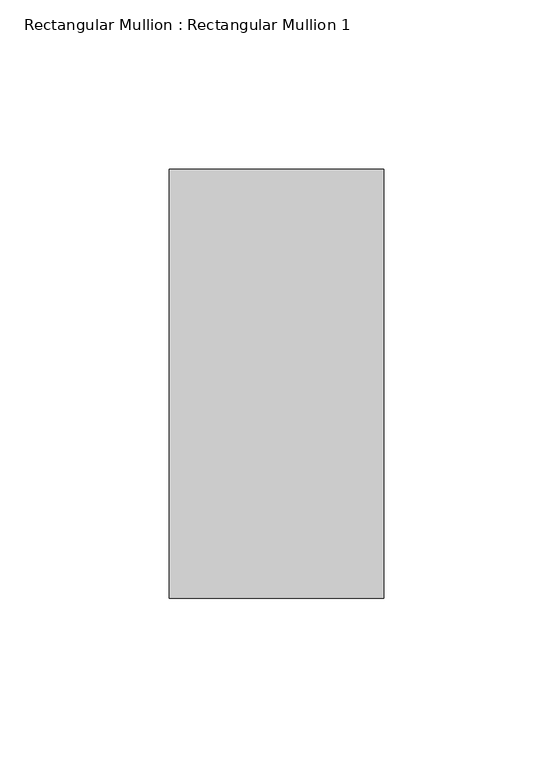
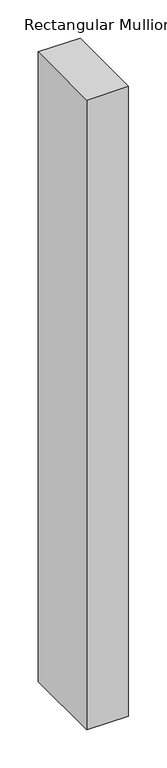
"""IFC4 building model written with IfcOpenShell, lengths in millimetres: member geometry, Rectangular Mullion : Rectangular Mullion 1."""

from ifc_helpers import new_model, si_unit, frame, origin, place, context, project, spatial, polyline, outline, extrude, source, transform, mapped, element, save


def rectangular_mullion_rectangular_mullion_1_81282a92(model_context):
    return source(origin(), model_context, "Body", "SweptSolid", [
        extrude(outline(polyline([(0.0, 63.5), (0.0, -63.5), (-63.5, -63.5), (-63.5, 63.5), (0.0, 63.5)])), frame((0.0, 0.0, -1008.5916667), z_axis=(0.0, 0.0, 1.0), x_axis=(1.0, 0.0, 0.0)), (0.0, 0.0, 1.0), 1008.5916667),
    ])


if __name__ == "__main__":
    model = new_model("IFC4")
    model_context = context("Model", 3, world=origin())
    ifc_project = project(units=[si_unit("LENGTHUNIT", "METRE", prefix="MILLI")], contexts=[model_context])
    site = spatial("IfcSite", under=ifc_project)
    building = spatial("IfcBuilding", under=site)
    placement = place(None, origin())
    rectangular_mullion_rectangular_mullion_1_shape = rectangular_mullion_rectangular_mullion_1_81282a92(model_context)
    element("IfcMember", 1, ObjectType="Rectangular Mullion : Rectangular Mullion 1", at=placement, inside=building, context=model_context, shape_type="MappedRepresentation", body=[
        mapped(rectangular_mullion_rectangular_mullion_1_shape, transform((0.0, 0.0, 0.0), x_axis=(1.0, 0.0, 0.0), y_axis=(0.0, 1.0, 0.0), z_axis=(0.0, 0.0, 1.0))),
    ])
    save(model, "model.ifc")
